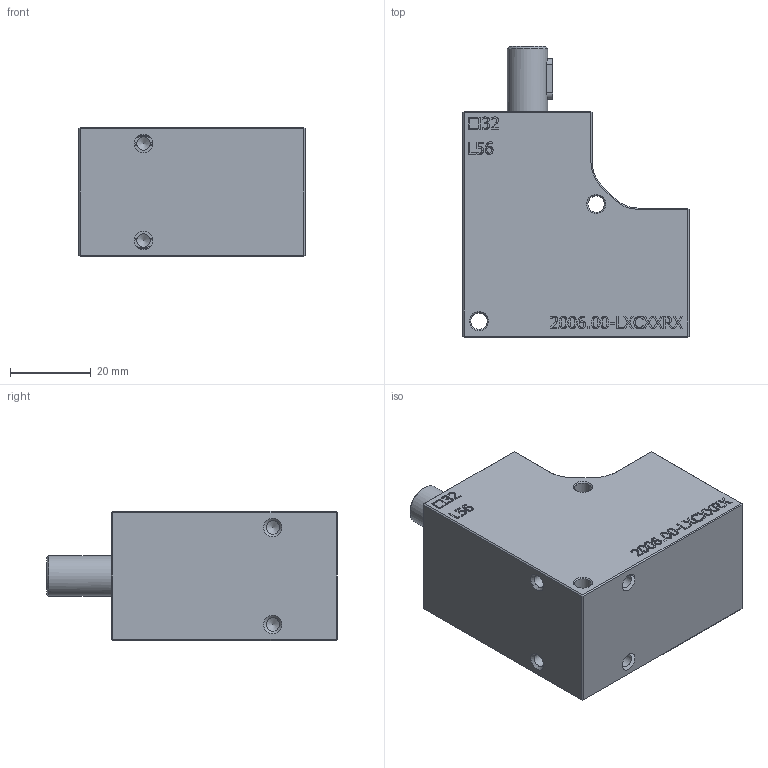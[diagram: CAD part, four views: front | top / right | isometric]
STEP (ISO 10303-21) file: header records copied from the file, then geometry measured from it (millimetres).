
FILE_DESCRIPTION(/* description */ (''),/* implementation_level */ '2;1');
FILE_NAME(/* name */ 'Bauteil3.stp',/* time_stamp */ '2024-12-09T09:19:11+01:00',/* author */ ('Weber_H'),/* organization */ (''),/* preprocessor_version */ 'ST-DEVELOPER v19.2',/* originating_system */ 'Autodesk Inventor 2023',/* authorisation */ '');
FILE_SCHEMA (('CONFIG_CONTROL_DESIGN'));
Length unit declared in the file: millimetre
Products named in the file (1): Bauteil3
Bounding box: 56 x 72 x 32 mm (x, y, z)
Volume: 77209.6 mm3; surface area: 17677 mm2
Topology: 1 solids, 2 shells, 514 faces, 1342 edges, 860 vertices
Faces by surface type: plane 237, bspline 167, cylinder 64, cone 40, torus 6
Full cylindrical faces by diameter (mm): 2 x4, 3.3 x13, 4.1 x2, 9 x1, 10 x3, 16.7 x1, 17 x1, 20 x1, 23.4 x1, 25.5 x1, 28 x4, 29.4 x2
Entity records: 17307 total; most frequent: CARTESIAN_POINT 5082, ORIENTED_EDGE 2656, DIRECTION 1908, EDGE_CURVE 1328, VERTEX_POINT 860, LINE 756, VECTOR 756, EDGE_LOOP 576
